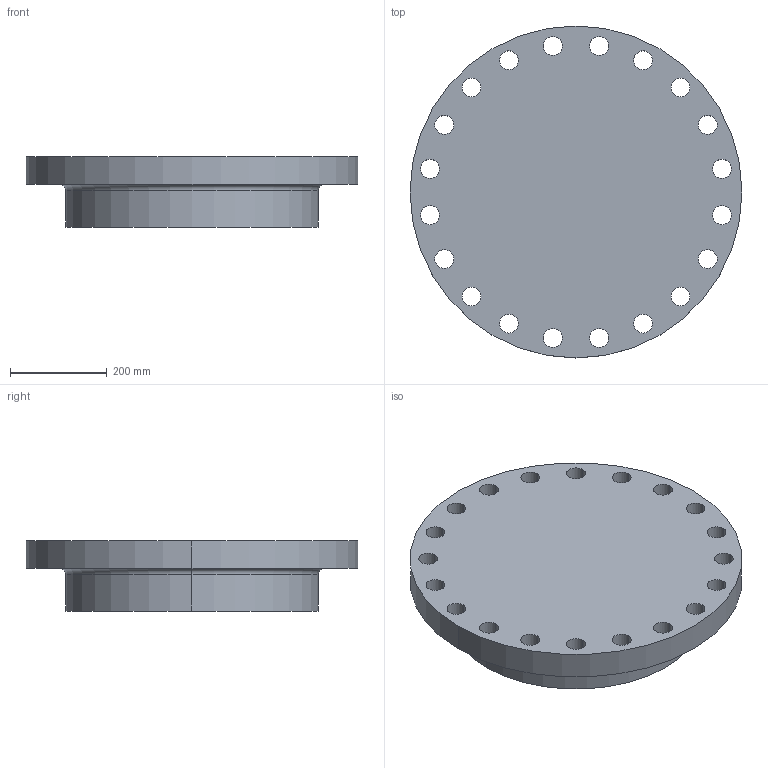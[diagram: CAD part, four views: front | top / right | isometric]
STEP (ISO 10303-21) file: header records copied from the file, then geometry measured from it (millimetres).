
FILE_DESCRIPTION (( 'STEP AP214' ), '1' );
FILE_NAME ('PN40 DN450 Type 21(i) - Type A Face.STEP', '2018-12-29T04:54:17', ( '' ), ( '' ), 'SwSTEP 2.0', 'SolidWorks 2019', '' );
FILE_SCHEMA (( 'AUTOMOTIVE_DESIGN' ));
Length unit declared in the file: millimetre
Products named in the file (1): PN40 DN450 Type 21(i) - Type A Face
Bounding box: 685 x 685 x 145 mm (x, y, z)
Volume: 38528228.7 mm3; surface area: 1087542 mm2
Topology: 1 solids, 1 shells, 49 faces, 136 edges, 90 vertices
Faces by surface type: cylinder 44, plane 3, torus 2
Entity records: 1740 total; most frequent: DIRECTION 328, CARTESIAN_POINT 276, ORIENTED_EDGE 272, AXIS2_PLACEMENT_3D 142, EDGE_CURVE 136, CIRCLE 92, VERTEX_POINT 90, EDGE_LOOP 90
